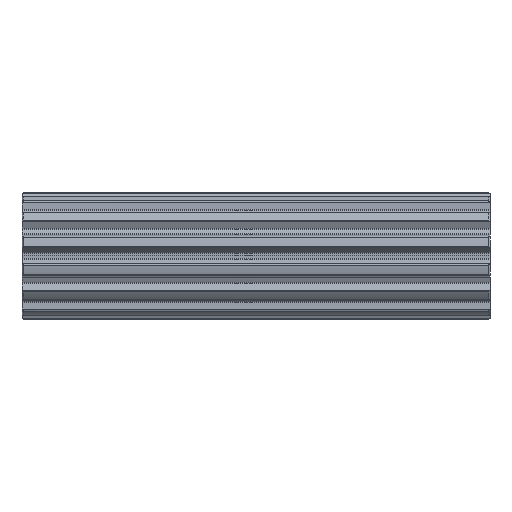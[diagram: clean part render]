
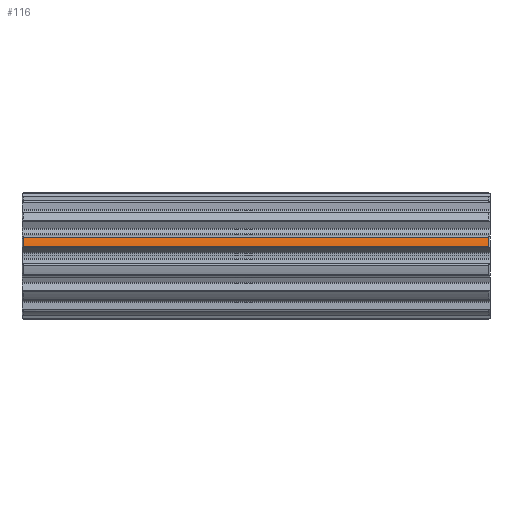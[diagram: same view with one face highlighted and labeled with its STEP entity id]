
A CAD part, top view. The second image highlights one B-rep face of the part: STEP entity #116.
In plain terms, the highlighted cylindrical face has radius 21.78 mm (diameter 43.56 mm), a partial arc.
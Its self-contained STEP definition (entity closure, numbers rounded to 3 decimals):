
#116=ADVANCED_FACE('',(#318),#319,.T.);
#318=FACE_OUTER_BOUND('',#640,.T.);
#319=CYLINDRICAL_SURFACE('',#641,21.78);
#640=EDGE_LOOP('',(#1199,#1200,#1201,#1202));
#641=AXIS2_PLACEMENT_3D('',#1203,#1204,#1205);
#1199=ORIENTED_EDGE('',*,*,#2387,.T.);
#1200=ORIENTED_EDGE('',*,*,#2443,.T.);
#1201=ORIENTED_EDGE('',*,*,#2444,.T.);
#1202=ORIENTED_EDGE('',*,*,#2445,.T.);
#1203=CARTESIAN_POINT('',(80.0,0.0,0.0));
#1204=DIRECTION('',(1.0,0.0,0.0));
#1205=DIRECTION('',(0.0,0.975,-0.223));
#2387=EDGE_CURVE('',#2931,#2940,#2942,.T.);
#2443=EDGE_CURVE('',#2940,#3043,#3044,.T.);
#2444=EDGE_CURVE('',#3043,#3045,#3046,.T.);
#2445=EDGE_CURVE('',#3045,#2931,#3047,.T.);
#2931=VERTEX_POINT('',#4023);
#2940=VERTEX_POINT('',#4057);
#2942=CIRCLE('',#4066,21.78);
#3043=VERTEX_POINT('',#4377);
#3044=LINE('',#4378,#4379);
#3045=VERTEX_POINT('',#4380);
#3046=CIRCLE('',#4381,21.78);
#3047=LINE('',#4382,#4383);
#4023=CARTESIAN_POINT('',(0.5,6.443,20.805));
#4057=CARTESIAN_POINT('',(0.5,3.222,21.54));
#4066=AXIS2_PLACEMENT_3D('',#5507,#5508,#5509);
#4377=CARTESIAN_POINT('',(159.5,3.222,21.54));
#4378=CARTESIAN_POINT('',(80.0,3.222,21.54));
#4379=VECTOR('',#5567,1.0);
#4380=CARTESIAN_POINT('',(159.5,6.443,20.805));
#4381=AXIS2_PLACEMENT_3D('',#5568,#5569,#5570);
#4382=CARTESIAN_POINT('',(80.0,6.443,20.805));
#4383=VECTOR('',#5571,1.0);
#5507=CARTESIAN_POINT('',(0.5,0.0,0.0));
#5508=DIRECTION('',(1.0,0.0,0.));
#5509=DIRECTION('',(0.,0.975,-0.223));
#5567=DIRECTION('',(1.0,0.0,0.0));
#5568=CARTESIAN_POINT('',(159.5,0.0,0.0));
#5569=DIRECTION('',(-1.0,0.0,0.0));
#5570=DIRECTION('',(0.0,0.975,-0.223));
#5571=DIRECTION('',(-1.0,0.0,0.0));
